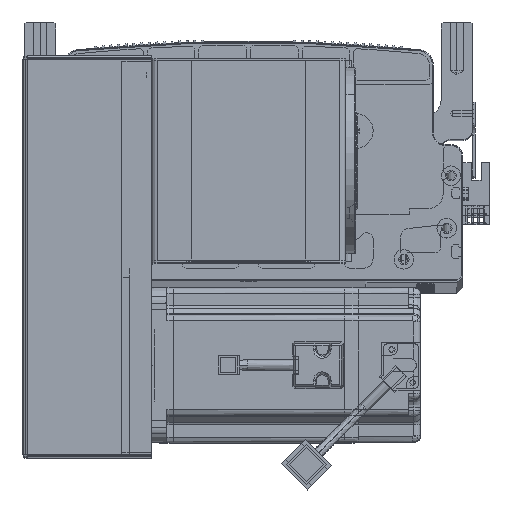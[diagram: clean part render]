
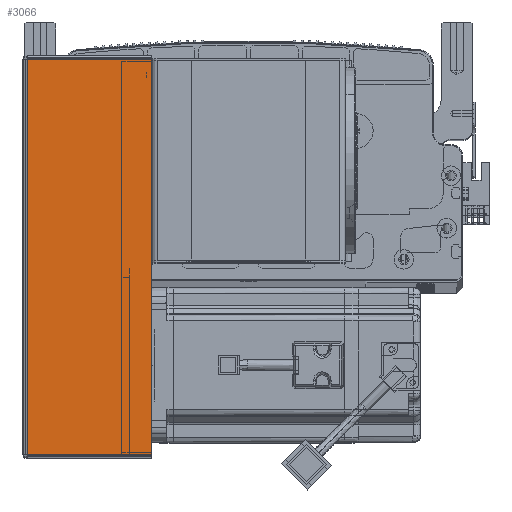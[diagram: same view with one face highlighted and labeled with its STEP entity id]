
A CAD part, top view. The second image highlights one B-rep face of the part: STEP entity #3066.
In plain terms, the highlighted planar face has unit normal (0, 0, 1) as drawn and (0, -1, 0) by its records, which use the part's own axes.
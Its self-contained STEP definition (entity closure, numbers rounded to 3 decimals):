
#1056 = DIRECTION ( 'NONE',  ( -1., 0., 0. ) ) ;
#1577 = EDGE_CURVE ( 'NONE', #77715, #10899, #60353, .T. ) ;
#2048 = PLANE ( 'NONE',  #57622 ) ;
#3066 = ADVANCED_FACE ( 'NONE', ( #99584 ), #2048, .F. ) ;
#4928 = CARTESIAN_POINT ( 'NONE',  ( 0.737, -1.5, -0.707 ) ) ;
#5275 = VECTOR ( 'NONE', #21419, 1000. ) ;
#9134 = CARTESIAN_POINT ( 'NONE',  ( 0., -1.5, 0. ) ) ;
#10888 = EDGE_LOOP ( 'NONE', ( #89300, #84618, #55721, #47897 ) ) ;
#10899 = VERTEX_POINT ( 'NONE', #4928 ) ;
#11020 = CARTESIAN_POINT ( 'NONE',  ( 64.5, -1.5, 0. ) ) ;
#12123 = VECTOR ( 'NONE', #96126, 1000. ) ;
#20448 = LINE ( 'NONE', #50832, #12123 ) ;
#21419 = DIRECTION ( 'NONE',  ( 1., 0., 0. ) ) ;
#22269 = CARTESIAN_POINT ( 'NONE',  ( 0.737, -1.5, 0. ) ) ;
#33385 = EDGE_CURVE ( 'NONE', #35235, #86686, #85140, .T. ) ;
#34877 = CARTESIAN_POINT ( 'NONE',  ( 0., -1.5, -0.707 ) ) ;
#35235 = VERTEX_POINT ( 'NONE', #91174 ) ;
#36504 = LINE ( 'NONE', #34877, #5275 ) ;
#47897 = ORIENTED_EDGE ( 'NONE', *, *, #93107, .F. ) ;
#50832 = CARTESIAN_POINT ( 'NONE',  ( 0., -1.5, -203.293 ) ) ;
#53105 = VECTOR ( 'NONE', #75040, 1000. ) ;
#53969 = VECTOR ( 'NONE', #81162, 1000. ) ;
#54615 = CARTESIAN_POINT ( 'NONE',  ( 0.737, -1.5, -203.293 ) ) ;
#55721 = ORIENTED_EDGE ( 'NONE', *, *, #33385, .T. ) ;
#56069 = EDGE_CURVE ( 'NONE', #77715, #35235, #20448, .T. ) ;
#57622 = AXIS2_PLACEMENT_3D ( 'NONE', #9134, #70235, #1056 ) ;
#60353 = LINE ( 'NONE', #22269, #53105 ) ;
#70235 = DIRECTION ( 'NONE',  ( 0., 1., 0. ) ) ;
#75040 = DIRECTION ( 'NONE',  ( 0., 0., 1. ) ) ;
#77715 = VERTEX_POINT ( 'NONE', #54615 ) ;
#80260 = CARTESIAN_POINT ( 'NONE',  ( 64.5, -1.5, -0.707 ) ) ;
#81162 = DIRECTION ( 'NONE',  ( 0., 0., 1. ) ) ;
#84618 = ORIENTED_EDGE ( 'NONE', *, *, #56069, .T. ) ;
#85140 = LINE ( 'NONE', #11020, #53969 ) ;
#86686 = VERTEX_POINT ( 'NONE', #80260 ) ;
#89300 = ORIENTED_EDGE ( 'NONE', *, *, #1577, .F. ) ;
#91174 = CARTESIAN_POINT ( 'NONE',  ( 64.5, -1.5, -203.293 ) ) ;
#93107 = EDGE_CURVE ( 'NONE', #10899, #86686, #36504, .T. ) ;
#96126 = DIRECTION ( 'NONE',  ( 1., 0., 0. ) ) ;
#99584 = FACE_OUTER_BOUND ( 'NONE', #10888, .T. ) ;
